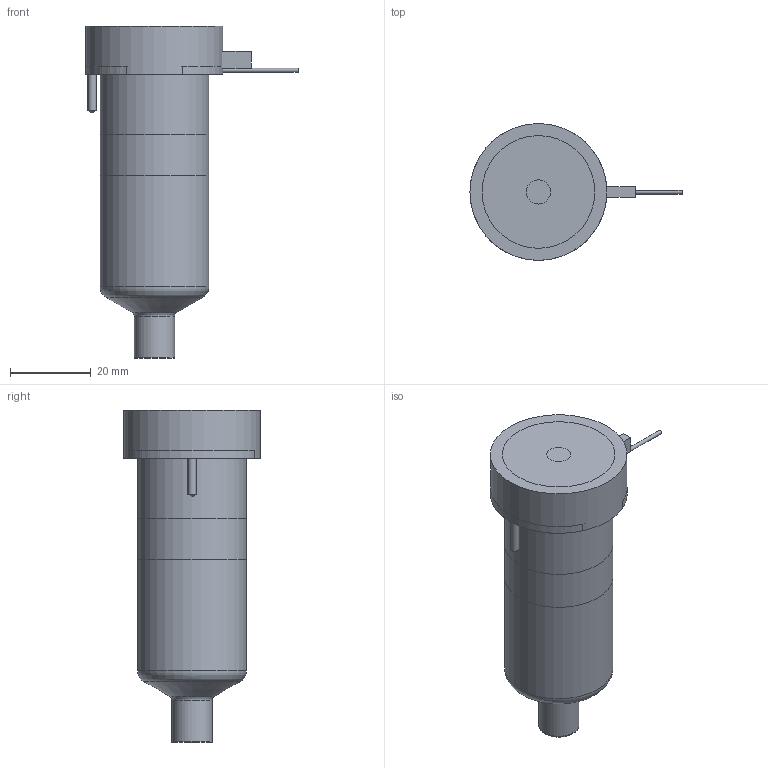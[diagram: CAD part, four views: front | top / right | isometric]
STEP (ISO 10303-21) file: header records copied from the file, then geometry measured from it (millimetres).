
FILE_DESCRIPTION(/* description */ (''),/* implementation_level */ '2;1');
FILE_NAME(/* name */ 'BXTSN-BXISN-BXOSN13065_250C_b',/* time_stamp */ '2007-01-18T09:58:31+13:00',/* author */ (''),/* organization */ (''),/* preprocessor_version */ 'ST-DEVELOPER v9',/* originating_system */ 'UGS - NX 4.0',/* authorisation */ '');
FILE_SCHEMA (('CONFIG_CONTROL_DESIGN'));
Length unit declared in the file: millimetre
Products named in the file (1): BXTSN-BXISN-BXOSN13065_250C_b
Bounding box: 52.65 x 34 x 82.43 mm (x, y, z)
Volume: 82605.2 mm3; surface area: 18402.7 mm2
Topology: 6 solids, 6 shells, 73 faces, 141 edges, 91 vertices
Faces by surface type: plane 34, cylinder 23, cone 8, torus 7, bspline 1
Full cylindrical faces by diameter (mm): 0.9 x1, 1 x3, 2 x2, 6 x1, 9.61 x1, 10.01 x2, 12.6 x1, 22.2 x1, 27 x2, 34 x1
Entity records: 1806 total; most frequent: CARTESIAN_POINT 357, DIRECTION 304, ORIENTED_EDGE 210, AXIS2_PLACEMENT_3D 134, EDGE_LOOP 112, EDGE_CURVE 105, VERTEX_POINT 84, ADVANCED_FACE 73
